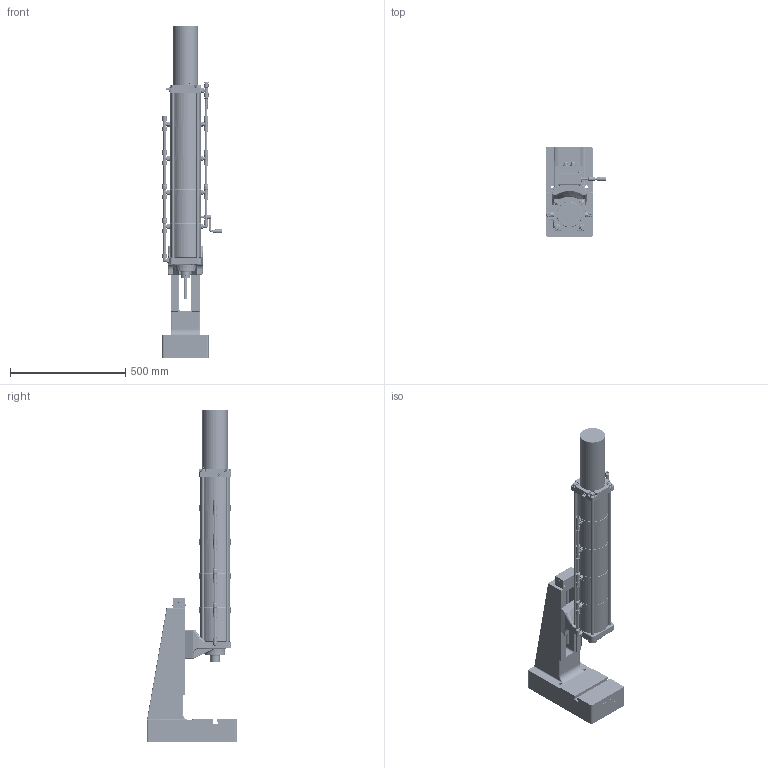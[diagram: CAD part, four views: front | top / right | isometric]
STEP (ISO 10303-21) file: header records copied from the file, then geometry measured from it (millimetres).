
FILE_DESCRIPTION(/* description */ ('Bausatz Ständer T4N HV-OST'),/* implementation_level */ '2;1');
FILE_NAME(/* name */ 'B:\02_CAD_oeffentlich\CAD_3D_oeffentlich_step\Druckluftpresse\DRP_3400_080_130.stp',/* time_stamp */ '2017-08-29T07:21:49+02:00',/* author */ ('Finsterle'),/* organization */ (''),/* preprocessor_version */ 'ST-DEVELOPER v16.1',/* originating_system */ 'Autodesk Inventor 2016',/* authorisation */ '');
FILE_SCHEMA (('AUTOMOTIVE_DESIGN { 1 0 10303 214 3 1 1 }'));
Products named in the file (5): ENG-000753-1_V; ENG-001036_V; HBF-000760; ENG-000755; HBF-001082_V
Assembly tree (5 placements, depth 2):
  HBF-001082_V
    ENG-000753-1_V
    ENG-001036_V
    HBF-000760
    ENG-000755  x2
Bounding box: 259.79 x 393.8 x 1442.34 mm (x, y, z)
Volume: 15110541.9 mm3; surface area: 2320687.1 mm2
Topology: 6 solids, 36 shells, 8130 faces, 21571 edges, 14045 vertices
Faces by surface type: plane 4781, bspline 2122, cylinder 677, cone 283, torus 192, sphere 75
Full cylindrical faces by diameter (mm): 1 x1, 2 x1, 2.4 x3, 2.459 x2, 3 x6, 3.242 x7, 3.5 x2, 3.65 x4, 4 x5, 4.134 x1, 4.2 x2, 4.5 x4, 4.917 x6, 5 x3, 6.2 x4, 6.5 x2, 6.647 x1, 8 x5, 8.4 x1, 8.5 x2, 9 x8, 10 x3, 10.02 x1, 10.5 x4, 11.5 x12, 11.8 x2, 12 x36, 12.5 x4, 13 x28, 13.5 x4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
Entity records: 271008 total; most frequent: CARTESIAN_POINT 79282, ORIENTED_EDGE 41150, DIRECTION 29967, EDGE_CURVE 20542, LINE 14037, VECTOR 14037, VERTEX_POINT 13847, EDGE_LOOP 9607
